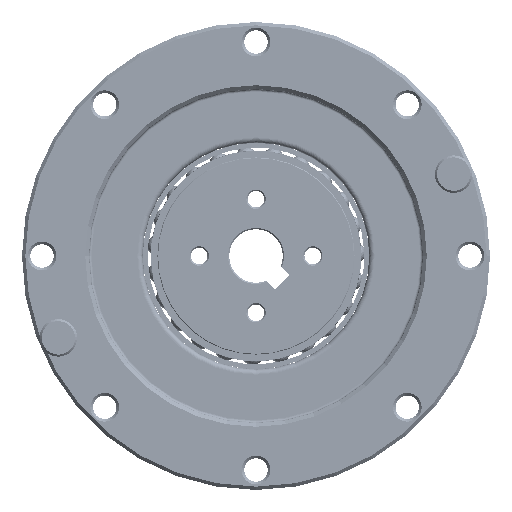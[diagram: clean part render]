
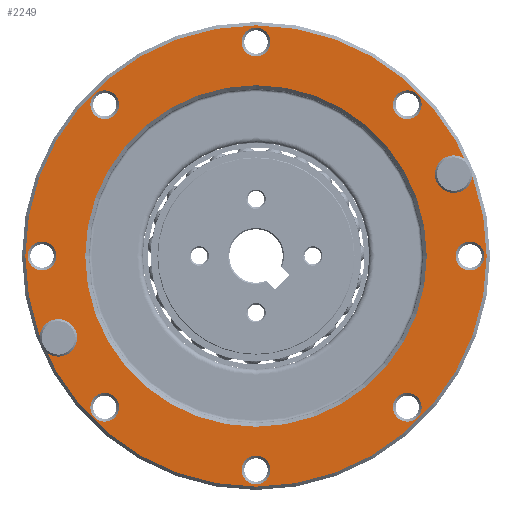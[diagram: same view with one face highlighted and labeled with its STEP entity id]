
A CAD part, front view. The second image highlights one B-rep face of the part: STEP entity #2249.
In plain terms, the highlighted planar face has unit normal (0, -1, 0).
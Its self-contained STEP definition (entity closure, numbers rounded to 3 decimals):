
#1892=PLANE('',#9992);
#2249=ADVANCED_FACE('',(#3066,#3067,#3068,#3069,#3070,#3071,#3072,#3073,
#3074,#3075,#3076,#3077),#1892,.T.);
#3066=FACE_BOUND('',#3662,.T.);
#3067=FACE_BOUND('',#3663,.T.);
#3068=FACE_BOUND('',#3664,.T.);
#3069=FACE_BOUND('',#3665,.T.);
#3070=FACE_BOUND('',#3666,.T.);
#3071=FACE_BOUND('',#3667,.T.);
#3072=FACE_BOUND('',#3668,.T.);
#3073=FACE_BOUND('',#3669,.T.);
#3074=FACE_BOUND('',#3670,.T.);
#3075=FACE_BOUND('',#3671,.T.);
#3076=FACE_BOUND('',#3672,.T.);
#3077=FACE_BOUND('',#3673,.T.);
#3662=EDGE_LOOP('',(#4585));
#3663=EDGE_LOOP('',(#4586));
#3664=EDGE_LOOP('',(#4587));
#3665=EDGE_LOOP('',(#4588));
#3666=EDGE_LOOP('',(#4589));
#3667=EDGE_LOOP('',(#4590));
#3668=EDGE_LOOP('',(#4591));
#3669=EDGE_LOOP('',(#4592));
#3670=EDGE_LOOP('',(#4593));
#3671=EDGE_LOOP('',(#4594));
#3672=EDGE_LOOP('',(#4595));
#3673=EDGE_LOOP('',(#4596));
#4585=ORIENTED_EDGE('',*,*,#8145,.T.);
#4586=ORIENTED_EDGE('',*,*,#8146,.T.);
#4587=ORIENTED_EDGE('',*,*,#8147,.T.);
#4588=ORIENTED_EDGE('',*,*,#8148,.T.);
#4589=ORIENTED_EDGE('',*,*,#8149,.T.);
#4590=ORIENTED_EDGE('',*,*,#8150,.T.);
#4591=ORIENTED_EDGE('',*,*,#8151,.T.);
#4592=ORIENTED_EDGE('',*,*,#8152,.T.);
#4593=ORIENTED_EDGE('',*,*,#8153,.T.);
#4594=ORIENTED_EDGE('',*,*,#8154,.T.);
#4595=ORIENTED_EDGE('',*,*,#8155,.F.);
#4596=ORIENTED_EDGE('',*,*,#8144,.T.);
#7163=VERTEX_POINT('',#13605);
#7164=VERTEX_POINT('',#13608);
#7165=VERTEX_POINT('',#13610);
#7166=VERTEX_POINT('',#13612);
#7167=VERTEX_POINT('',#13614);
#7168=VERTEX_POINT('',#13616);
#7169=VERTEX_POINT('',#13618);
#7170=VERTEX_POINT('',#13620);
#7171=VERTEX_POINT('',#13622);
#7172=VERTEX_POINT('',#13624);
#7173=VERTEX_POINT('',#13626);
#7174=VERTEX_POINT('',#13628);
#8144=EDGE_CURVE('',#7163,#7163,#9441,.T.);
#8145=EDGE_CURVE('',#7164,#7164,#9442,.T.);
#8146=EDGE_CURVE('',#7165,#7165,#9443,.T.);
#8147=EDGE_CURVE('',#7166,#7166,#9444,.T.);
#8148=EDGE_CURVE('',#7167,#7167,#9445,.T.);
#8149=EDGE_CURVE('',#7168,#7168,#9446,.T.);
#8150=EDGE_CURVE('',#7169,#7169,#9447,.T.);
#8151=EDGE_CURVE('',#7170,#7170,#9448,.T.);
#8152=EDGE_CURVE('',#7171,#7171,#9449,.T.);
#8153=EDGE_CURVE('',#7172,#7172,#9450,.T.);
#8154=EDGE_CURVE('',#7173,#7173,#9451,.T.);
#8155=EDGE_CURVE('',#7174,#7174,#9452,.T.);
#9441=CIRCLE('',#9979,25.546);
#9442=CIRCLE('',#9981,2.15);
#9443=CIRCLE('',#9982,2.15);
#9444=CIRCLE('',#9983,2.15);
#9445=CIRCLE('',#9984,2.15);
#9446=CIRCLE('',#9985,2.15);
#9447=CIRCLE('',#9986,2.15);
#9448=CIRCLE('',#9987,2.15);
#9449=CIRCLE('',#9988,2.15);
#9450=CIRCLE('',#9989,2.15);
#9451=CIRCLE('',#9990,2.15);
#9452=CIRCLE('',#9991,34.5);
#9979=AXIS2_PLACEMENT_3D('',#13604,#11082,#11083);
#9981=AXIS2_PLACEMENT_3D('',#13607,#11086,#11087);
#9982=AXIS2_PLACEMENT_3D('',#13609,#11088,#11089);
#9983=AXIS2_PLACEMENT_3D('',#13611,#11090,#11091);
#9984=AXIS2_PLACEMENT_3D('',#13613,#11092,#11093);
#9985=AXIS2_PLACEMENT_3D('',#13615,#11094,#11095);
#9986=AXIS2_PLACEMENT_3D('',#13617,#11096,#11097);
#9987=AXIS2_PLACEMENT_3D('',#13619,#11098,#11099);
#9988=AXIS2_PLACEMENT_3D('',#13621,#11100,#11101);
#9989=AXIS2_PLACEMENT_3D('',#13623,#11102,#11103);
#9990=AXIS2_PLACEMENT_3D('',#13625,#11104,#11105);
#9991=AXIS2_PLACEMENT_3D('',#13627,#11106,#11107);
#9992=AXIS2_PLACEMENT_3D('',#13629,#11108,#11109);
#11082=DIRECTION('',(0.,1.,0.));
#11083=DIRECTION('',(0.,0.,-1.));
#11086=DIRECTION('',(0.,1.,0.));
#11087=DIRECTION('',(0.,0.,-1.));
#11088=DIRECTION('',(0.,1.,0.));
#11089=DIRECTION('',(0.,0.,-1.));
#11090=DIRECTION('',(0.,1.,0.));
#11091=DIRECTION('',(0.,0.,-1.));
#11092=DIRECTION('',(0.,1.,0.));
#11093=DIRECTION('',(0.,0.,-1.));
#11094=DIRECTION('',(0.,1.,0.));
#11095=DIRECTION('',(0.,0.,-1.));
#11096=DIRECTION('',(0.,1.,0.));
#11097=DIRECTION('',(0.,0.,-1.));
#11098=DIRECTION('',(0.,1.,0.));
#11099=DIRECTION('',(0.,0.,-1.));
#11100=DIRECTION('',(0.,1.,0.));
#11101=DIRECTION('',(0.,0.,-1.));
#11102=DIRECTION('',(0.,1.,0.));
#11103=DIRECTION('',(0.,0.,-1.));
#11104=DIRECTION('',(0.,1.,0.));
#11105=DIRECTION('',(0.,0.,-1.));
#11106=DIRECTION('',(0.,1.,0.));
#11107=DIRECTION('',(0.,0.,-1.));
#11108=DIRECTION('',(0.,-1.,0.));
#11109=DIRECTION('',(0.,0.,-1.));
#13604=CARTESIAN_POINT('',(0.,-23.1,0.));
#13605=CARTESIAN_POINT('',(0.,-23.1,-25.546));
#13607=CARTESIAN_POINT('',(-29.564,-23.1,-12.246));
#13608=CARTESIAN_POINT('',(-29.564,-23.1,-14.396));
#13609=CARTESIAN_POINT('',(22.627,-23.1,22.627));
#13610=CARTESIAN_POINT('',(22.627,-23.1,20.477));
#13611=CARTESIAN_POINT('',(0.,-23.1,32.));
#13612=CARTESIAN_POINT('',(0.,-23.1,29.85));
#13613=CARTESIAN_POINT('',(-22.627,-23.1,22.627));
#13614=CARTESIAN_POINT('',(-22.627,-23.1,20.477));
#13615=CARTESIAN_POINT('',(-32.,-23.1,0.));
#13616=CARTESIAN_POINT('',(-32.,-23.1,-2.15));
#13617=CARTESIAN_POINT('',(-22.627,-23.1,-22.627));
#13618=CARTESIAN_POINT('',(-22.627,-23.1,-24.777));
#13619=CARTESIAN_POINT('',(0.,-23.1,-32.));
#13620=CARTESIAN_POINT('',(0.,-23.1,-34.15));
#13621=CARTESIAN_POINT('',(22.627,-23.1,-22.627));
#13622=CARTESIAN_POINT('',(22.627,-23.1,-24.777));
#13623=CARTESIAN_POINT('',(29.564,-23.1,12.246));
#13624=CARTESIAN_POINT('',(29.564,-23.1,10.096));
#13625=CARTESIAN_POINT('',(32.,-23.1,0.));
#13626=CARTESIAN_POINT('',(32.,-23.1,-2.15));
#13627=CARTESIAN_POINT('',(0.,-23.1,0.));
#13628=CARTESIAN_POINT('',(0.,-23.1,-34.5));
#13629=CARTESIAN_POINT('',(25.546,-23.1,0.));
